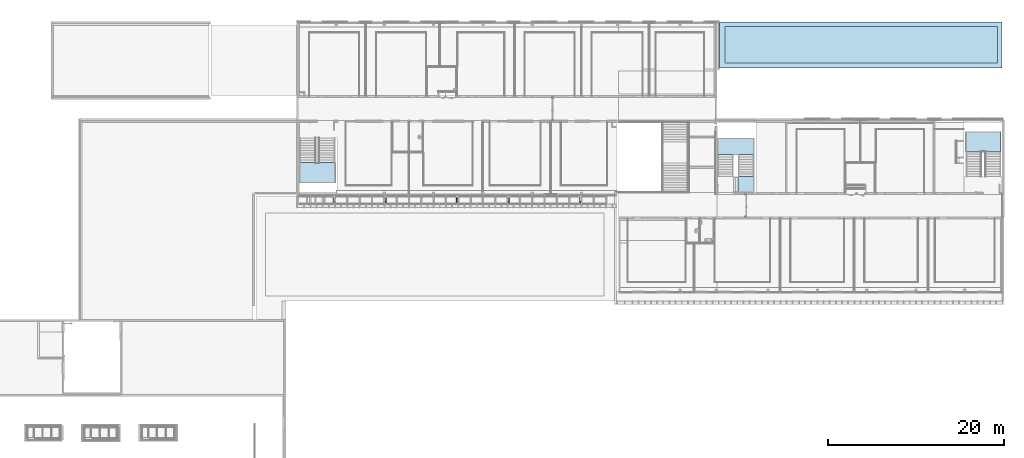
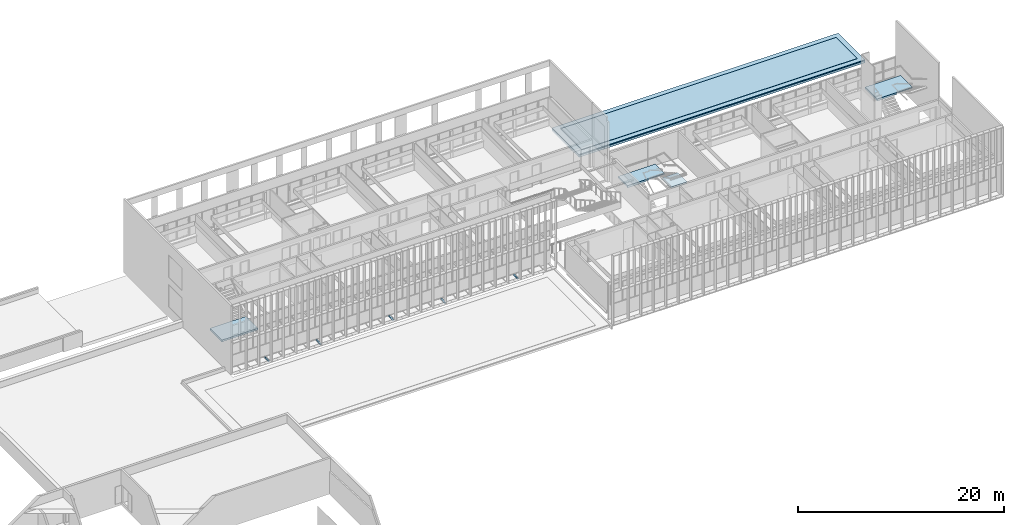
# One storey, part 34 of 106: 7 slabs, 5 plates, 1 opening, 7 elements without a shape of their own.
"""IFC2X3 building model written with IfcOpenShell, lengths in centimetres."""

from ifc_helpers import new_model, entity, si_unit, converted_unit, derived_unit, direction, frame, frame_2d, origin, origin_2d_with_axis, place, context, subcontext, project, spatial, rectangle, extrude, faceted_brep, source, transform, mapped, material, layer, layer_set, layer_usage, type_object, type_shapes, element, aggregate, save


model = new_model("IFC2X3")

# Units and contexts
model_context = context("Model", 3, precision=0.001, world=origin(), true_north=direction((6.12303176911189e-17, 1.0)))
body_context = subcontext(model_context, "Body", "Model", "MODEL_VIEW")
ifc_project = project(units=[si_unit("LENGTHUNIT", "METRE", prefix="CENTI"), si_unit("AREAUNIT", "SQUARE_METRE"), si_unit("VOLUMEUNIT", "CUBIC_METRE"), converted_unit("PLANEANGLEUNIT", "DEGREE", entity("IfcRatioMeasure", 0.0174532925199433), si_unit("PLANEANGLEUNIT", "RADIAN"), dimensions=[0, 0, 0, 0, 0, 0, 0]), si_unit("MASSUNIT", "GRAM", prefix="KILO"), derived_unit("MASSDENSITYUNIT", [(si_unit("MASSUNIT", "GRAM", prefix="KILO"), 1), (si_unit("LENGTHUNIT", "METRE"), -3)]), si_unit("TIMEUNIT", "SECOND"), si_unit("FREQUENCYUNIT", "HERTZ"), si_unit("THERMODYNAMICTEMPERATUREUNIT", "DEGREE_CELSIUS"), derived_unit("THERMALTRANSMITTANCEUNIT", [(si_unit("MASSUNIT", "GRAM", prefix="KILO"), 1), (si_unit("THERMODYNAMICTEMPERATUREUNIT", "KELVIN"), -1), (si_unit("TIMEUNIT", "SECOND"), -3)]), derived_unit("VOLUMETRICFLOWRATEUNIT", [(si_unit("LENGTHUNIT", "METRE"), 3), (si_unit("TIMEUNIT", "SECOND"), -1)]), si_unit("ELECTRICCURRENTUNIT", "AMPERE"), si_unit("ELECTRICVOLTAGEUNIT", "VOLT"), si_unit("POWERUNIT", "WATT"), si_unit("FORCEUNIT", "NEWTON", prefix="KILO"), si_unit("ILLUMINANCEUNIT", "LUX"), si_unit("LUMINOUSFLUXUNIT", "LUMEN"), si_unit("LUMINOUSINTENSITYUNIT", "CANDELA"), derived_unit("USERDEFINED", [(si_unit("MASSUNIT", "GRAM", prefix="KILO"), -1), (si_unit("LENGTHUNIT", "METRE"), -2), (si_unit("TIMEUNIT", "SECOND"), 3), (si_unit("LUMINOUSFLUXUNIT", "LUMEN"), 1)]), derived_unit("LINEARVELOCITYUNIT", [(si_unit("LENGTHUNIT", "METRE"), 1), (si_unit("TIMEUNIT", "SECOND"), -1)]), si_unit("PRESSUREUNIT", "PASCAL"), derived_unit("USERDEFINED", [(si_unit("LENGTHUNIT", "METRE"), -2), (si_unit("MASSUNIT", "GRAM", prefix="KILO"), 1), (si_unit("TIMEUNIT", "SECOND"), -2)])], contexts=[model_context])

# Site, building, storey
site_placement = place(None, frame((-2781.94577612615, 7442.24238424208, 0.0)))
site = spatial("IfcSite", under=ifc_project, at=site_placement, Name="Default", CompositionType="ELEMENT")
building_placement = place(site_placement, origin())
building = spatial("IfcBuilding", under=site, at=building_placement, CompositionType="ELEMENT")
storey_placement = place(building_placement, frame((0.0, 0.0, 422.0)))
storey = spatial("IfcBuildingStorey", under=building, at=storey_placement, Name="Toiture - Cuisine", CompositionType="ELEMENT", Elevation=421.999999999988)

# Roof, plates
curtain_wall_type = type_object("IfcCurtainWallType", Name="Vitres inclinées:Toit en verre 1 m x 2 m", PredefinedType="NOTDEFINED")
roof_1_placement = place(building_placement, origin())
roof_1 = element("IfcRoof", 1, at=roof_1_placement, inside=storey, type_object=curtain_wall_type, Name="Vitres inclinées:Toit en verre 1 m x 2 m", ObjectType="Vitres inclinées:Toit en verre 1 m x 2 m", ShapeType="NOTDEFINED")
ifc_material_1 = material(Name="Verre")
ifc_layer_1 = layer(ifc_material_1, 4.0)
ifc_layer_set_1 = layer_set([ifc_layer_1], Name="Panneau système:Vitré")
ifc_layer_usage_1 = layer_usage(ifc_layer_set_1, "AXIS3", "POSITIVE", 0.0)
plate_type_1 = type_object("IfcPlateType", Name="Vitré", PredefinedType="CURTAIN_PANEL", material=ifc_layer_set_1)
shared_shape_1 = source(origin(), body_context, "Body", "SweptSolid", [
    extrude(rectangle(XDim=4.0, YDim=15.0000000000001, at=origin_2d_with_axis()), frame((0.0, 0.0, 0.0), z_axis=(0.0, 0.0, 1.0), x_axis=(0.0, 1.0, 0.0)), (0.0, 0.0, 1.0), 80.1235111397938),
])
type_shapes(plate_type_1, [shared_shape_1])
plate_1_placement = place(roof_1_placement, frame((-7999.49987763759, -2035.34756574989, 358.254827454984), z_axis=(0.0, 0.998629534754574, 0.0523359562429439), x_axis=(1.0, 0.0, 0.0)))
plate_1 = element("IfcPlate", 2, at=plate_1_placement, type_object=plate_type_1, material=ifc_layer_usage_1, Name="Panneau système:Vitré", ObjectType="Panneau système:Vitré", context=body_context, shape_type="MappedRepresentation", body=[
    mapped(shared_shape_1, transform((0.0, 0.0, 0.0), scale=1.0)),
])
ifc_layer_usage_2 = layer_usage(ifc_layer_set_1, "AXIS3", "POSITIVE", 0.0)
plate_type_2 = type_object("IfcPlateType", Name="Vitré", PredefinedType="CURTAIN_PANEL", material=ifc_layer_set_1)
shared_shape_2 = source(origin(), body_context, "Body", "SweptSolid", [
    extrude(rectangle(XDim=4.0, YDim=17.5000000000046, at=origin_2d_with_axis()), frame((0.0, 0.0, 0.0), z_axis=(0.0, 0.0, 1.0), x_axis=(0.0, 1.0, 0.0)), (0.0, 0.0, 1.0), 80.1235111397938),
])
type_shapes(plate_type_2, [shared_shape_2])
plate_2_placement = place(roof_1_placement, frame((-7418.24987763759, -2035.34756574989, 358.254827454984), z_axis=(0.0, 0.998629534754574, 0.0523359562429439), x_axis=(1.0, 0.0, 0.0)))
plate_2 = element("IfcPlate", 3, at=plate_2_placement, type_object=plate_type_2, material=ifc_layer_usage_2, Name="Panneau système:Vitré", ObjectType="Panneau système:Vitré", context=body_context, shape_type="MappedRepresentation", body=[
    mapped(shared_shape_2, transform((0.0, 0.0, 0.0), scale=1.0)),
])
ifc_layer_usage_3 = layer_usage(ifc_layer_set_1, "AXIS3", "POSITIVE", 0.0)
plate_3_placement = place(roof_1_placement, frame((-5200.74987763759, -2035.34756574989, 358.254827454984), z_axis=(0.0, 0.998629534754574, 0.0523359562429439), x_axis=(1.0, 0.0, 0.0)))
plate_3 = element("IfcPlate", 4, at=plate_3_placement, type_object=plate_type_2, material=ifc_layer_usage_3, Name="Panneau système:Vitré", ObjectType="Panneau système:Vitré", context=body_context, shape_type="MappedRepresentation", body=[
    mapped(shared_shape_2, transform((0.0, 0.0, 0.0), scale=1.0)),
])
ifc_layer_usage_4 = layer_usage(ifc_layer_set_1, "AXIS3", "POSITIVE", 0.0)
plate_type_3 = type_object("IfcPlateType", Name="Vitré", PredefinedType="CURTAIN_PANEL", material=ifc_layer_set_1)
shared_shape_3 = source(origin(), body_context, "Body", "SweptSolid", [
    extrude(rectangle(XDim=4.0, YDim=17.4998359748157, at=origin_2d_with_axis()), frame((0.0, 0.0, 0.0), z_axis=(0.0, 0.0, 1.0), x_axis=(0.0, 1.0, 0.0)), (0.0, 0.0, 1.0), 80.1235111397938),
])
type_shapes(plate_type_3, [shared_shape_3])
plate_4_placement = place(roof_1_placement, frame((-6600.74995965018, -2035.34756574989, 358.254827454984), z_axis=(0.0, 0.998629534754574, 0.0523359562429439), x_axis=(1.0, 0.0, 0.0)))
plate_4 = element("IfcPlate", 5, at=plate_4_placement, type_object=plate_type_3, material=ifc_layer_usage_4, Name="Panneau système:Vitré", ObjectType="Panneau système:Vitré", context=body_context, shape_type="MappedRepresentation", body=[
    mapped(shared_shape_3, transform((0.0, 0.0, 0.0), scale=1.0)),
])
ifc_layer_usage_5 = layer_usage(ifc_layer_set_1, "AXIS3", "POSITIVE", 0.0)
plate_type_4 = type_object("IfcPlateType", Name="Vitré", PredefinedType="CURTAIN_PANEL", material=ifc_layer_set_1)
shared_shape_4 = source(origin(), body_context, "Body", "SweptSolid", [
    extrude(rectangle(XDim=4.0, YDim=17.5001640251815, at=origin_2d_with_axis()), frame((0.0, 0.0, 0.0), z_axis=(0.0, 0.0, 1.0), x_axis=(0.0, 1.0, 0.0)), (0.0, 0.0, 1.0), 80.1235111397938),
])
type_shapes(plate_type_4, [shared_shape_4])
plate_5_placement = place(roof_1_placement, frame((-6018.24995965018, -2035.34756574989, 358.254827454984), z_axis=(0.0, 0.998629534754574, 0.0523359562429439), x_axis=(1.0, 0.0, 0.0)))
plate_5 = element("IfcPlate", 6, at=plate_5_placement, type_object=plate_type_4, material=ifc_layer_usage_5, Name="Panneau système:Vitré", ObjectType="Panneau système:Vitré", context=body_context, shape_type="MappedRepresentation", body=[
    mapped(shared_shape_4, transform((0.0, 0.0, 0.0), scale=1.0)),
])
aggregate(roof_1, [plate_1, plate_2, plate_4, plate_5, plate_3])

# Roof, slab
roof_2_placement = place(building_placement, frame((-3623.99987968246, -492.548500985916, 313.0)))
roof_2 = element("IfcRoof", 7, at=roof_2_placement, inside=storey, Name="Toit de base:03 - Dalle 20 cm + isolant 5 cm", ObjectType="Toit de base:03 - Dalle 20 cm + isolant 5 cm", ShapeType="NOTDEFINED")
ifc_material_2 = material(Name="00 - Isolant")
ifc_layer_2 = layer(ifc_material_2, 5.0)
ifc_material_3 = material(Name="01 - Maçonnerie")
ifc_layer_3 = layer(ifc_material_3, 20.0)
ifc_layer_set_2 = layer_set([ifc_layer_2, ifc_layer_3], Name="Toit de base:03 - Dalle 20 cm + isolant 5 cm")
slab_1_placement = place(roof_2_placement, origin())
slab_1 = element("IfcSlab", 8, at=slab_1_placement, material=ifc_layer_set_2, Name="Toit de base:03 - Dalle 20 cm + isolant 5 cm", ObjectType="Toit de base:03 - Dalle 20 cm + isolant 5 cm", PredefinedType="ROOF", context=body_context, shape_type="SweptSolid", body=[
    extrude(rectangle(XDim=3213.99999684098, YDim=522.548500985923, at=frame_2d((1.13686837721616e-13, 0.0), x_axis=(1.0, 0.0))), frame((1607.0, 261.274250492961, 0.0)), (0.0, 0.0, 1.0), 25.0),
])
aggregate(roof_2, [slab_1])

roof_3_placement = place(building_placement, frame((-3560.49987968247, -437.54850098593, 338.0)))
roof_3 = element("IfcRoof", 9, at=roof_3_placement, inside=storey, Name="Toit de base:03 - Végétalisation", ObjectType="Toit de base:03 - Végétalisation", ShapeType="NOTDEFINED")
ifc_material_4 = material(Name="Herbe")
ifc_layer_4 = layer(ifc_material_4, 12.0)
ifc_layer_set_3 = layer_set([ifc_layer_4], Name="Toit de base:03 - Végétalisation")
slab_2_placement = place(roof_3_placement, origin())
slab_2 = element("IfcSlab", 10, at=slab_2_placement, material=ifc_layer_set_3, Name="Toit de base:03 - Végétalisation", ObjectType="Toit de base:03 - Végétalisation", PredefinedType="ROOF", context=body_context, shape_type="SweptSolid", body=[
    extrude(rectangle(XDim=412.548500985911, YDim=3095.49999684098, at=frame_2d((-2.27373675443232e-13, 0.0), x_axis=(0.0, -1.0))), frame((1547.74999842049, 206.274250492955, 0.0)), (0.0, 0.0, 1.0), 12.0),
])
aggregate(roof_3, [slab_2])

# Roof, slab, opening
roof_4_placement = place(building_placement, frame((0.0, 0.0, 422.0)))
roof_4 = element("IfcRoof", 11, at=roof_4_placement, inside=storey, Name="Toit de base:03 - gravillons", ObjectType="Toit de base:03 - gravillons", ShapeType="NOTDEFINED")
slab_3_placement = place(building_placement, frame((0.0, 0.0, 422.0)))
slab_3 = element("IfcSlab", 12, at=slab_3_placement, Name="Toit de base:03 - gravillons:1", ObjectType="Toit de base:03 - gravillons", PredefinedType="ROOF", context=body_context, shape_type="SweptSolid", body=[
    extrude(rectangle(XDim=522.548500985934, YDim=3213.99999684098, at=frame_2d((2.8421709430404e-14, -2.27373675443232e-13), x_axis=(1.0, 0.0))), frame((-2016.99988126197, -231.274250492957, -84.0), z_axis=(0.0, 0.0, 1.0), x_axis=(0.0, -1.0, 0.0)), (0.0, 0.0, 1.0), 10.0),
])
opening_placement = place(building_placement, frame((0.0, 0.0, 422.0)))
element("IfcOpeningElement", 13, at=opening_placement, cuts=slab_3, Name="Toit de base:03 - gravillons:1", ObjectType="Opening", context=body_context, shape_type="SweptSolid", body=[
    extrude(rectangle(XDim=412.54850098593, YDim=3095.49999684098, at=frame_2d((0.0, 2.27373675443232e-13), x_axis=(1.0, 0.0))), frame((-2012.74988126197, -231.274250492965, -84.0), z_axis=(0.0, 0.0, 1.0), x_axis=(0.0, -1.0, 0.0)), (0.0, 0.0, 1.0), 10.0),
])
aggregate(roof_4, [slab_3])

# Stair, slab
stair_1_placement = place(building_placement, frame((0.0, 0.0, 422.0)))
stair_1 = element("IfcStair", 14, at=stair_1_placement, inside=storey, Name="Escalier coulé sur place:Escalier", ObjectType="Escalier coulé sur place:Monobloc", ShapeType="NOTDEFINED")
ifc_material_5 = material(Name="Maçonnerie - Béton")
slab_4_placement = place(stair_1_placement, frame((-825.299882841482, -1446.95903364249, 0.0)))
slab_4 = element("IfcSlab", 15, at=slab_4_placement, material=ifc_material_5, Name="Escalier coulé sur place:Escalier:547910 Landing 1", ObjectType="Palier monobloc:Epaisseur 150 mm", PredefinedType="LANDING", context=body_context, shape_type="Brep", body=[
    faceted_brep([(0.0, 0.0, 184.380952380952), (180.0, 0.0, 184.380952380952), (220.0, 0.0, 184.380952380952), (400.0, 0.0, 184.380952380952), (400.0, 17.8338934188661, 184.380952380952), (400.0, 232.880000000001, 184.380952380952), (0.0, 232.880000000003, 184.380952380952), (0.0, 10.1661065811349, 184.380952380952), (180.0, 0.0, 164.380952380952), (220.0, 0.0, 164.380952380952), (220.0, 0.0, 175.057024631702), (400.0, 0.0, 175.057024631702), (400.0, 17.8338934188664, 164.380952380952), (400.0, 232.880000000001, 164.380952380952), (0.0, 232.880000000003, 164.380952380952), (220.0, 17.8338934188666, 164.380952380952), (180.0, 10.1661065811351, 164.380952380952), (0.0, 10.1661065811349, 164.380952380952), (180.0, 0.0, 158.295119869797), (0.0, 0.0, 158.295119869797), (0.0, 0.0, 167.619047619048)], [[[0, 1, 2, 3, 4, 5, 6, 7]], [[2, 1, 8, 9, 10]], [[3, 11, 12, 13, 5, 4]], [[6, 5, 13, 14]], [[15, 9, 8, 16, 17, 14, 13, 12]], [[17, 16, 18, 19]], [[16, 8, 18]], [[15, 12, 11, 10]], [[19, 20, 0, 7, 6, 14, 17]], [[3, 2, 10, 11]], [[1, 0, 20, 19, 18, 8]], [[9, 15, 10]]]),
])
aggregate(stair_1, [slab_4])

stair_2_placement = place(building_placement, frame((0.0, 0.0, 422.0)))
stair_2 = element("IfcStair", 16, at=stair_2_placement, inside=storey, Name="Escalier coulé sur place:Escalier", ObjectType="Escalier coulé sur place:Monobloc", ShapeType="NOTDEFINED")
slab_5_placement = place(stair_2_placement, frame((-8394.19987766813, -1802.8799999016, 0.0)))
slab_5 = element("IfcSlab", 17, at=slab_5_placement, material=ifc_material_5, Name="Escalier coulé sur place:Escalier:549512 Landing 1", ObjectType="Palier monobloc:Epaisseur 150 mm", PredefinedType="LANDING", context=body_context, shape_type="Brep", body=[
    faceted_brep([(190.0, 232.880000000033, 184.380952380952), (0.0, 232.880000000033, 184.380952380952), (0.0, 222.713893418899, 184.380952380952), (0.0, 0.0, 184.380952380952), (407.700000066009, 0.0, 184.380952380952), (407.700000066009, 215.046106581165, 184.380952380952), (407.700000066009, 232.880000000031, 184.380952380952), (217.700000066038, 232.880000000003, 184.380952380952), (0.0, 0.0, 164.380952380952), (407.700000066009, 0.0, 164.380952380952), (407.700000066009, 215.046106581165, 164.380952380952), (407.700000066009, 232.880000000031, 175.057024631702), (217.700000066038, 232.880000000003, 175.057024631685), (217.700000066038, 232.880000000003, 164.380952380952), (190.0, 232.880000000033, 164.380952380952), (217.700000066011, 215.046106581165, 164.380952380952), (0.0, 222.713893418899, 164.380952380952), (190.0, 222.713893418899, 164.380952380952), (0.0, 232.880000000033, 158.295119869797), (190.0, 232.880000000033, 158.295119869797), (0.0, 232.880000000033, 167.619047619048)], [[[0, 1, 2, 3, 4, 5, 6, 7]], [[4, 3, 8, 9]], [[4, 9, 10, 11, 6, 5]], [[0, 7, 12, 13, 14]], [[13, 15, 10, 9, 8, 16, 17, 14]], [[17, 16, 18, 19]], [[14, 17, 19]], [[10, 15, 12, 11]], [[1, 0, 14, 19, 18, 20]], [[1, 20, 18, 16, 8, 3, 2]], [[7, 6, 11, 12]], [[15, 13, 12]]]),
])
aggregate(stair_2, [slab_5])

# Stair, slabs
stair_3_placement = place(building_placement, frame((0.0, 0.0, 422.0)))
stair_3 = element("IfcStair", 18, at=stair_3_placement, inside=storey, Name="Escalier coulé sur place:Escalier", ObjectType="Escalier coulé sur place:Monobloc", ShapeType="NOTDEFINED")
slab_6_placement = place(stair_3_placement, frame((-3647.99987968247, -1478.07903364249, 0.0)))
slab_6 = element("IfcSlab", 19, at=slab_6_placement, material=ifc_material_5, Name="Escalier coulé sur place:Escalier:1920743 Landing 1", ObjectType="Palier monobloc:Epaisseur 150 mm", PredefinedType="LANDING", context=body_context, shape_type="Brep", body=[
    faceted_brep([(0.0, 0.0, 161.200000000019), (180.0, 0.0, 161.200000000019), (238.699996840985, 0.0, 161.200000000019), (418.699996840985, 0.0, 161.200000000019), (418.699996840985, 18.7053421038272, 161.200000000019), (418.699996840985, 184.0, 161.200000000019), (0.0, 184.0, 161.200000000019), (0.0, 9.29465789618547, 161.200000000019), (0.0, 0.0, 145.080000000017), (0.0, 0.0, 135.848932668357), (180.0, 0.0, 135.848932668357), (180.0, 0.0, 141.200000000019), (238.699996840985, 0.0, 141.200000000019), (238.699996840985, 0.0, 151.968932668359), (418.699996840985, 0.0, 151.968932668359), (418.699996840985, 18.7053421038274, 141.200000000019), (418.699996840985, 184.0, 141.200000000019), (0.0, 184.0, 141.200000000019), (0.0, 9.29465789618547, 141.200000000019), (238.699996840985, 18.7053421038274, 141.200000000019), (180.0, 9.29465789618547, 141.200000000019)], [[[0, 1, 2, 3, 4, 5, 6, 7]], [[1, 0, 8, 9, 10, 11]], [[2, 1, 11, 12, 13]], [[3, 2, 13, 14]], [[3, 14, 15, 16, 5, 4]], [[6, 5, 16, 17]], [[9, 8, 0, 7, 6, 17, 18]], [[19, 12, 11, 20, 18, 17, 16, 15]], [[12, 19, 13]], [[18, 20, 10, 9]], [[20, 11, 10]], [[19, 15, 14, 13]]]),
])
slab_7_placement = place(stair_3_placement, frame((-3409.29988284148, -1910.07903364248, 0.0)))
slab_7 = element("IfcSlab", 20, at=slab_7_placement, material=ifc_material_5, Name="Escalier coulé sur place:Escalier:1920743 Landing 2", ObjectType="Palier monobloc:Epaisseur 150 mm", PredefinedType="LANDING", context=body_context, shape_type="Brep", body=[
    faceted_brep([(180.0, 180.0, 322.400000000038), (0.0, 180.0, 322.400000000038), (0.0, 0.0, 322.400000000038), (18.7053421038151, 0.0, 322.400000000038), (180.0, 0.0, 322.400000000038), (180.0, 170.705342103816, 322.400000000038), (180.0, 180.0, 306.280000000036), (180.0, 180.0, 297.048932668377), (0.0, 180.0, 297.048932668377), (0.0, 180.0, 306.280000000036), (0.0, 180.0, 313.168932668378), (0.0, 170.705342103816, 302.400000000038), (0.0, 170.705342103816, 313.168932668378), (0.0, 0.0, 313.168932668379), (18.7053421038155, 0.0, 302.400000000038), (180.0, 0.0, 302.400000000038), (180.0, 170.705342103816, 302.400000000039), (18.705342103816, 170.705342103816, 302.400000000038)], [[[0, 1, 2, 3, 4, 5]], [[1, 0, 6, 7, 8, 9, 10]], [[2, 1, 10, 9, 8, 11, 12, 13]], [[2, 13, 14, 15, 4, 3]], [[7, 6, 0, 5, 4, 15, 16]], [[17, 16, 15, 14]], [[17, 11, 8, 7, 16]], [[11, 17, 12]], [[17, 14, 13, 12]]]),
])
aggregate(stair_3, [slab_6, slab_7])

save(model, "model.ifc")
